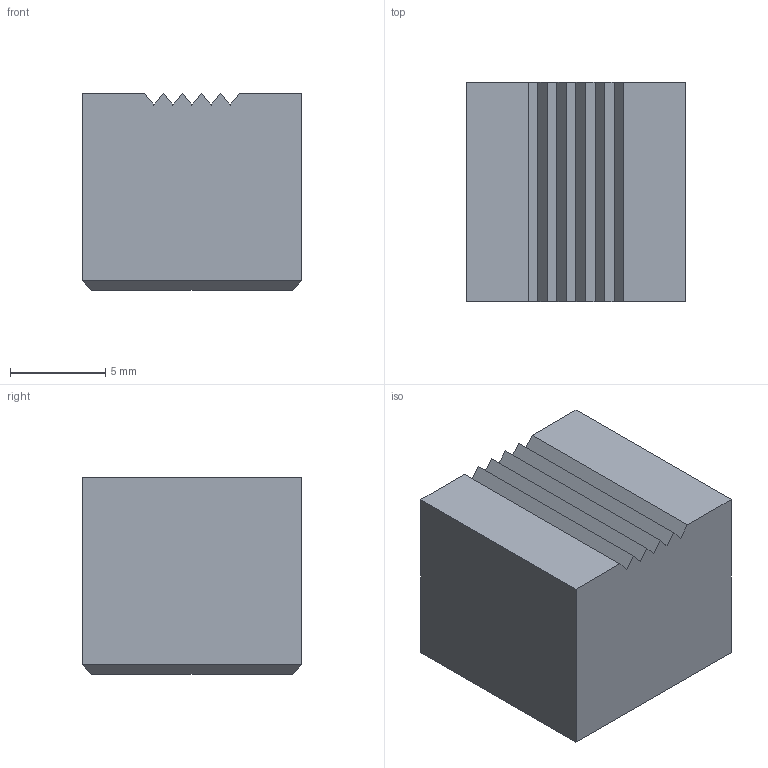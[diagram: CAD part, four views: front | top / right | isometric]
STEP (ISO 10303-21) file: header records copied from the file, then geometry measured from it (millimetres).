
FILE_DESCRIPTION((''),'2;1');
FILE_NAME('3532W006.stp','2001-04-09T10:38:23',(''),(''),'AutoCAD STEP 2000i','AutoCAD 2000i',', , ');
FILE_SCHEMA(('CONFIG_CONTROL_DESIGN'));
Length unit declared in the file: millimetre
Products named in the file (2): 3532B-MDTA; 3532B-MDT
Assembly tree (1 placements, depth 2):
  3532B-MDTA
    3532B-MDT
Bounding box: 11.51 x 11.51 x 10.32 mm (x, y, z)
Volume: 1344.3 mm3; surface area: 755.5 mm2
Topology: 1 solids, 1 shells, 21 faces, 53 edges, 34 vertices
Faces by surface type: plane 21
Entity records: 724 total; most frequent: CARTESIAN_POINT 110, ORIENTED_EDGE 106, DIRECTION 99, VECTOR 53, LINE 53, EDGE_CURVE 53, VERTEX_POINT 34, AXIS2_PLACEMENT_3D 23
